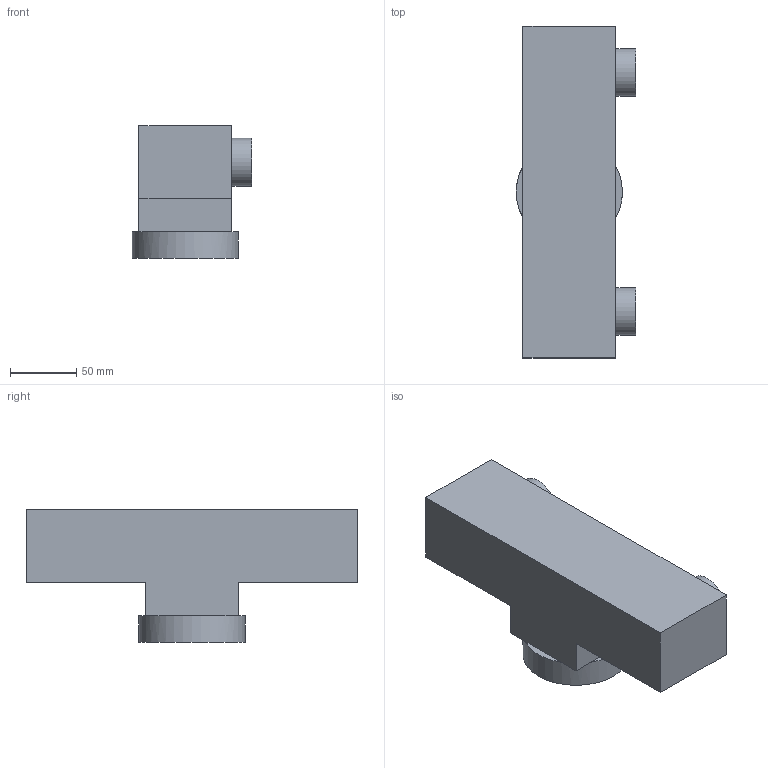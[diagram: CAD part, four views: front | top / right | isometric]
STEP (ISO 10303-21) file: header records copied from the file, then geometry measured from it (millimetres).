
FILE_DESCRIPTION(/* description */ (''),/* implementation_level */ '2;1');
FILE_NAME(/* name */ 'pan_cam.step',/* time_stamp */ '2026-11-14T21:13:11+01:00',/* author */ ('malgo'),/* organization */ (''),/* preprocessor_version */ 'ST-DEVELOPER v20.1',/* originating_system */ 'Autodesk Inventor 2026',/* authorisation */ '');
FILE_SCHEMA (('AUTOMOTIVE_DESIGN { 1 0 10303 214 3 1 1 }'));
Length unit declared in the file: metre
Products named in the file (1): pan_cam
Bounding box: 90 x 250 x 100 mm (x, y, z)
Volume: 1216067.2 mm3; surface area: 86665.9 mm2
Topology: 1 solids, 1 shells, 23 faces, 49 edges, 30 vertices
Faces by surface type: plane 20, cylinder 3
Full cylindrical faces by diameter (mm): 36 x2, 80 x1
Entity records: 650 total; most frequent: DIRECTION 111, CARTESIAN_POINT 103, ORIENTED_EDGE 98, EDGE_CURVE 49, AXIS2_PLACEMENT_3D 38, LINE 35, VECTOR 35, VERTEX_POINT 30
